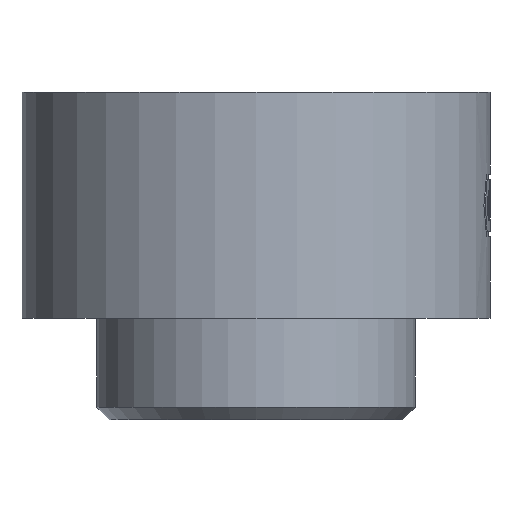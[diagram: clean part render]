
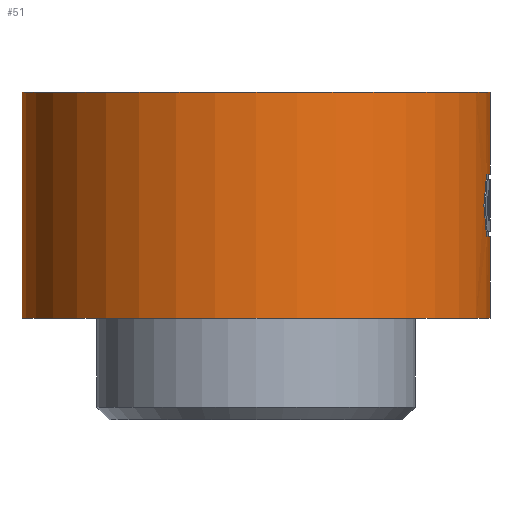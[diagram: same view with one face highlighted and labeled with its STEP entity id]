
A CAD part, front view. The second image highlights one B-rep face of the part: STEP entity #51.
In plain terms, the highlighted cylindrical face has radius 15 mm (diameter 30 mm), a partial arc.
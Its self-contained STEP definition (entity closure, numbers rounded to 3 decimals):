
#51 = ADVANCED_FACE ( 'NONE', ( #786 ), #780, .T. ) ;
#52 = ORIENTED_EDGE ( 'NONE', *, *, #206, .T. ) ;
#53 = ORIENTED_EDGE ( 'NONE', *, *, #54, .F. ) ;
#54 = EDGE_CURVE ( 'NONE', #208, #222, #775, .T. ) ;
#61 = VERTEX_POINT ( 'NONE', #805 ) ;
#67 = ORIENTED_EDGE ( 'NONE', *, *, #232, .T. ) ;
#68 = ORIENTED_EDGE ( 'NONE', *, *, #69, .F. ) ;
#69 = EDGE_CURVE ( 'NONE', #61, #237, #679, .T. ) ;
#168 = ORIENTED_EDGE ( 'NONE', *, *, #241, .F. ) ;
#169 = ORIENTED_EDGE ( 'NONE', *, *, #175, .T. ) ;
#170 = EDGE_LOOP ( 'NONE', ( #168, #169, #67, #68, #179, #171, #173, #52, #53 ) ) ;
#171 = ORIENTED_EDGE ( 'NONE', *, *, #172, .F. ) ;
#172 = EDGE_CURVE ( 'NONE', #182, #181, #859, .T. ) ;
#173 = ORIENTED_EDGE ( 'NONE', *, *, #174, .F. ) ;
#174 = EDGE_CURVE ( 'NONE', #207, #182, #852, .T. ) ;
#175 = EDGE_CURVE ( 'NONE', #205, #204, #980, .T. ) ;
#179 = ORIENTED_EDGE ( 'NONE', *, *, #180, .F. ) ;
#180 = EDGE_CURVE ( 'NONE', #181, #61, #876, .T. ) ;
#181 = VERTEX_POINT ( 'NONE', #875 ) ;
#182 = VERTEX_POINT ( 'NONE', #878 ) ;
#204 = VERTEX_POINT ( 'NONE', #942 ) ;
#205 = VERTEX_POINT ( 'NONE', #941 ) ;
#206 = EDGE_CURVE ( 'NONE', #207, #222, #940, .T. ) ;
#207 = VERTEX_POINT ( 'NONE', #936 ) ;
#208 = VERTEX_POINT ( 'NONE', #935 ) ;
#222 = VERTEX_POINT ( 'NONE', #869 ) ;
#232 = EDGE_CURVE ( 'NONE', #204, #237, #1108, .T. ) ;
#237 = VERTEX_POINT ( 'NONE', #1107 ) ;
#241 = EDGE_CURVE ( 'NONE', #205, #208, #1127, .T. ) ;
#675 = DIRECTION ( 'NONE',  ( 1., 0., 0. ) ) ;
#676 = DIRECTION ( 'NONE',  ( 0., 0., 1. ) ) ;
#677 = CARTESIAN_POINT ( 'NONE',  ( 0., 0., -9.25 ) ) ;
#678 = AXIS2_PLACEMENT_3D ( 'NONE', #677, #676, #675 ) ;
#679 = CIRCLE ( 'NONE', #678, 15. ) ;
#775 = CIRCLE ( 'NONE', #821, 15. ) ;
#776 = DIRECTION ( 'NONE',  ( 1., 0., 0. ) ) ;
#777 = DIRECTION ( 'NONE',  ( 0., 0., 1. ) ) ;
#778 = CARTESIAN_POINT ( 'NONE',  ( 0., 0., 0. ) ) ;
#779 = AXIS2_PLACEMENT_3D ( 'NONE', #778, #777, #776 ) ;
#780 = CYLINDRICAL_SURFACE ( 'NONE', #779, 15. ) ;
#781 = CARTESIAN_POINT ( 'NONE',  ( 0., 0., 0. ) ) ;
#786 = FACE_OUTER_BOUND ( 'NONE', #170, .T. ) ;
#805 = CARTESIAN_POINT ( 'NONE',  ( 14.776, -2.582, -9.25 ) ) ;
#819 = DIRECTION ( 'NONE',  ( 1., 0., 0. ) ) ;
#820 = DIRECTION ( 'NONE',  ( 0., 0., 1. ) ) ;
#821 = AXIS2_PLACEMENT_3D ( 'NONE', #781, #820, #819 ) ;
#849 = DIRECTION ( 'NONE',  ( -1., 0., 0. ) ) ;
#850 = DIRECTION ( 'NONE',  ( 0., 0., -1. ) ) ;
#851 = AXIS2_PLACEMENT_3D ( 'NONE', #858, #850, #849 ) ;
#852 = CIRCLE ( 'NONE', #851, 15. ) ;
#853 = CARTESIAN_POINT ( 'NONE',  ( 0., 0., -14.5 ) ) ;
#854 = CARTESIAN_POINT ( 'NONE',  ( 14.607, -3.41, -7.25 ) ) ;
#855 = CARTESIAN_POINT ( 'NONE',  ( 14.671, -3.135, -6.587 ) ) ;
#856 = CARTESIAN_POINT ( 'NONE',  ( 14.728, -2.859, -5.92 ) ) ;
#857 = CARTESIAN_POINT ( 'NONE',  ( 14.776, -2.582, -5.25 ) ) ;
#858 = CARTESIAN_POINT ( 'NONE',  ( 0., 0., -5.25 ) ) ;
#859 = B_SPLINE_CURVE_WITH_KNOTS ( 'NONE', 3,
 ( #857, #856, #855, #854 ),
 .UNSPECIFIED., .F., .F.,
 ( 4, 4 ),
 ( 0., 1. ),
 .UNSPECIFIED. ) ;
#869 = CARTESIAN_POINT ( 'NONE',  ( 15., 0., 0. ) ) ;
#871 = CARTESIAN_POINT ( 'NONE',  ( 14.776, -2.582, -9.25 ) ) ;
#872 = CARTESIAN_POINT ( 'NONE',  ( 14.728, -2.859, -8.58 ) ) ;
#873 = CARTESIAN_POINT ( 'NONE',  ( 14.671, -3.135, -7.913 ) ) ;
#874 = CARTESIAN_POINT ( 'NONE',  ( 14.607, -3.41, -7.25 ) ) ;
#875 = CARTESIAN_POINT ( 'NONE',  ( 14.607, -3.41, -7.25 ) ) ;
#876 = B_SPLINE_CURVE_WITH_KNOTS ( 'NONE', 3,
 ( #874, #873, #872, #871 ),
 .UNSPECIFIED., .F., .F.,
 ( 4, 4 ),
 ( 0., 1. ),
 .UNSPECIFIED. ) ;
#878 = CARTESIAN_POINT ( 'NONE',  ( 14.776, -2.582, -5.25 ) ) ;
#935 = CARTESIAN_POINT ( 'NONE',  ( -15., 0., 0. ) ) ;
#936 = CARTESIAN_POINT ( 'NONE',  ( 15., 0., -5.25 ) ) ;
#937 = DIRECTION ( 'NONE',  ( 0., 0., 1. ) ) ;
#938 = VECTOR ( 'NONE', #937, 1000. ) ;
#939 = CARTESIAN_POINT ( 'NONE',  ( 15., 0., 0. ) ) ;
#940 = LINE ( 'NONE', #939, #938 ) ;
#941 = CARTESIAN_POINT ( 'NONE',  ( -15., 0., -14.5 ) ) ;
#942 = CARTESIAN_POINT ( 'NONE',  ( 15., 0., -14.5 ) ) ;
#977 = DIRECTION ( 'NONE',  ( 1., 0., 0. ) ) ;
#978 = DIRECTION ( 'NONE',  ( 0., 0., 1. ) ) ;
#979 = AXIS2_PLACEMENT_3D ( 'NONE', #853, #978, #977 ) ;
#980 = CIRCLE ( 'NONE', #979, 15. ) ;
#1069 = VECTOR ( 'NONE', #1136, 1000. ) ;
#1082 = DIRECTION ( 'NONE',  ( 0., 0., 1. ) ) ;
#1083 = VECTOR ( 'NONE', #1082, 1000. ) ;
#1084 = CARTESIAN_POINT ( 'NONE',  ( -15., 0., 0. ) ) ;
#1107 = CARTESIAN_POINT ( 'NONE',  ( 15., 0., -9.25 ) ) ;
#1108 = LINE ( 'NONE', #1128, #1069 ) ;
#1127 = LINE ( 'NONE', #1084, #1083 ) ;
#1128 = CARTESIAN_POINT ( 'NONE',  ( 15., 0., 0. ) ) ;
#1136 = DIRECTION ( 'NONE',  ( 0., 0., 1. ) ) ;
